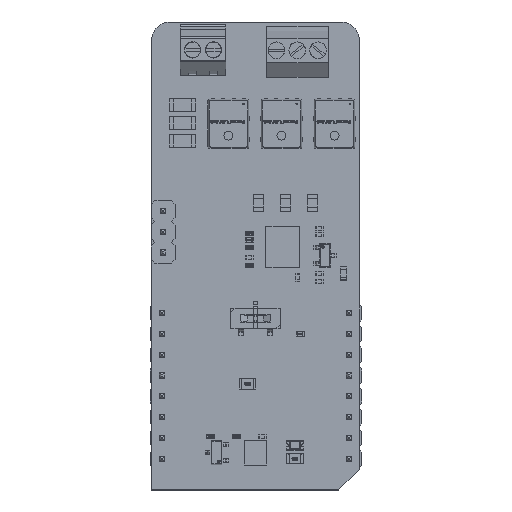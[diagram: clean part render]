
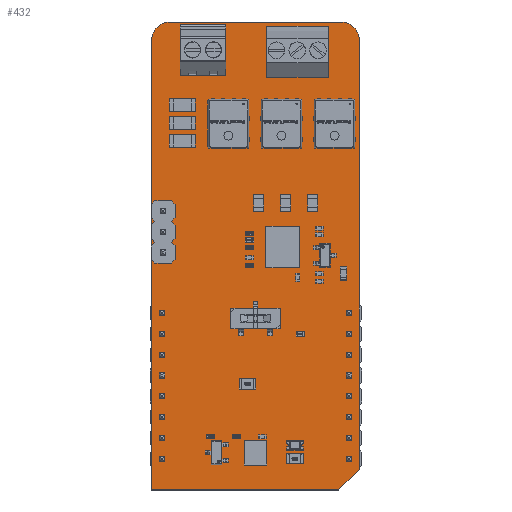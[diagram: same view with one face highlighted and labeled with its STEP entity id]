
A CAD part, top view. The second image highlights one B-rep face of the part: STEP entity #432.
In plain terms, the highlighted planar face has unit normal (0, 0, 1).
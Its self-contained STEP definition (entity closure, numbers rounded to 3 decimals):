
#203 = VERTEX_POINT('',#204);
#204 = CARTESIAN_POINT('',(-1.27,-3.81,0.));
#210 = EDGE_CURVE('',#203,#211,#213,.T.);
#211 = VERTEX_POINT('',#212);
#212 = CARTESIAN_POINT('',(-1.27,51.054,0.));
#213 = LINE('',#214,#215);
#214 = CARTESIAN_POINT('',(-1.27,-3.81,0.));
#215 = VECTOR('',#216,1.);
#216 = DIRECTION('',(0.,1.,0.));
#241 = EDGE_CURVE('',#211,#242,#244,.T.);
#242 = VERTEX_POINT('',#243);
#243 = CARTESIAN_POINT('',(1.016,53.34,0.));
#244 = CIRCLE('',#245,2.288);
#245 = AXIS2_PLACEMENT_3D('',#246,#247,#248);
#246 = CARTESIAN_POINT('',(1.018,51.052,0.));
#247 = DIRECTION('',(0.,0.,-1.));
#248 = DIRECTION('',(-1.,0.001,0.));
#274 = EDGE_CURVE('',#242,#275,#277,.T.);
#275 = VERTEX_POINT('',#276);
#276 = CARTESIAN_POINT('',(21.844,53.34,0.));
#277 = LINE('',#278,#279);
#278 = CARTESIAN_POINT('',(1.016,53.34,0.));
#279 = VECTOR('',#280,1.);
#280 = DIRECTION('',(1.,0.,0.));
#305 = EDGE_CURVE('',#275,#306,#308,.T.);
#306 = VERTEX_POINT('',#307);
#307 = CARTESIAN_POINT('',(24.13,51.054,0.));
#308 = CIRCLE('',#309,2.288);
#309 = AXIS2_PLACEMENT_3D('',#310,#311,#312);
#310 = CARTESIAN_POINT('',(21.842,51.052,0.));
#311 = DIRECTION('',(0.,0.,-1.));
#312 = DIRECTION('',(0.001,1.,0.));
#338 = EDGE_CURVE('',#306,#339,#341,.T.);
#339 = VERTEX_POINT('',#340);
#340 = CARTESIAN_POINT('',(24.13,-1.27,0.));
#341 = LINE('',#342,#343);
#342 = CARTESIAN_POINT('',(24.13,51.054,0.));
#343 = VECTOR('',#344,1.);
#344 = DIRECTION('',(0.,-1.,0.));
#369 = EDGE_CURVE('',#339,#370,#372,.T.);
#370 = VERTEX_POINT('',#371);
#371 = CARTESIAN_POINT('',(21.59,-3.81,0.));
#372 = LINE('',#373,#374);
#373 = CARTESIAN_POINT('',(24.13,-1.27,0.));
#374 = VECTOR('',#375,1.);
#375 = DIRECTION('',(-0.707,-0.707,0.));
#400 = EDGE_CURVE('',#370,#203,#401,.T.);
#401 = LINE('',#402,#403);
#402 = CARTESIAN_POINT('',(21.59,-3.81,0.));
#403 = VECTOR('',#404,1.);
#404 = DIRECTION('',(-1.,0.,0.));
#432 = ADVANCED_FACE('',(#433),#442,.T.);
#433 = FACE_BOUND('',#434,.F.);
#434 = EDGE_LOOP('',(#435,#436,#437,#438,#439,#440,#441));
#435 = ORIENTED_EDGE('',*,*,#210,.T.);
#436 = ORIENTED_EDGE('',*,*,#241,.T.);
#437 = ORIENTED_EDGE('',*,*,#274,.T.);
#438 = ORIENTED_EDGE('',*,*,#305,.T.);
#439 = ORIENTED_EDGE('',*,*,#338,.T.);
#440 = ORIENTED_EDGE('',*,*,#369,.T.);
#441 = ORIENTED_EDGE('',*,*,#400,.T.);
#442 = PLANE('',#443);
#443 = AXIS2_PLACEMENT_3D('',#444,#445,#446);
#444 = CARTESIAN_POINT('',(-1.27,-3.81,0.));
#445 = DIRECTION('',(0.,0.,1.));
#446 = DIRECTION('',(1.,0.,0.));
